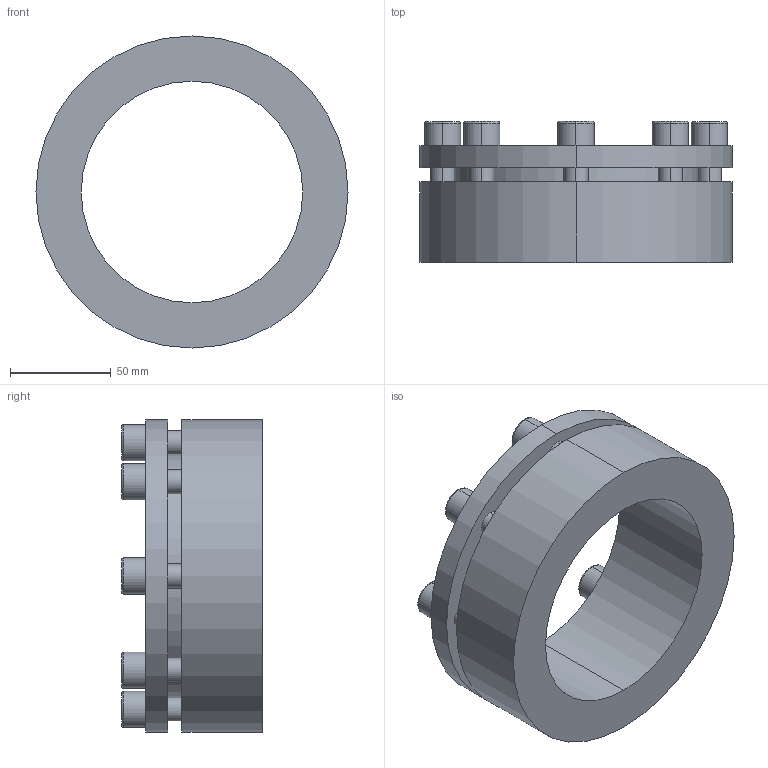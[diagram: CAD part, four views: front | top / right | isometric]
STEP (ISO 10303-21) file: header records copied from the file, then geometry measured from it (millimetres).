
FILE_DESCRIPTION (( 'STEP AP203' ), '1' );
FILE_NAME ('PL-H1 110-155.STEP', '2021-10-23T00:57:54', ( '' ), ( '' ), 'SwSTEP 2.0', 'SolidWorks 2018', '' );
FILE_SCHEMA (( 'CONFIG_CONTROL_DESIGN' ));
Length unit declared in the file: millimetre
Products named in the file (1): PL-H1 110-155
Bounding box: 155 x 70 x 155 mm (x, y, z)
Volume: 518109.6 mm3; surface area: 87845.5 mm2
Topology: 1 solids, 1 shells, 135 faces, 329 edges, 214 vertices
Faces by surface type: plane 68, cylinder 51, torus 16
Entity records: 4070 total; most frequent: DIRECTION 735, CARTESIAN_POINT 679, ORIENTED_EDGE 658, EDGE_CURVE 329, AXIS2_PLACEMENT_3D 270, VERTEX_POINT 214, LINE 195, VECTOR 195
